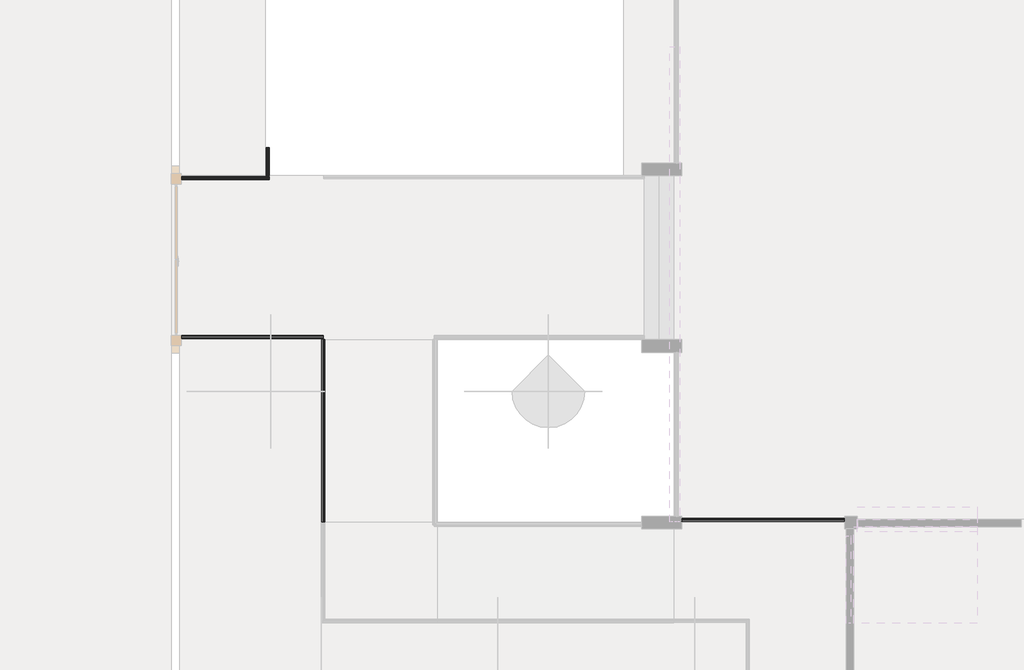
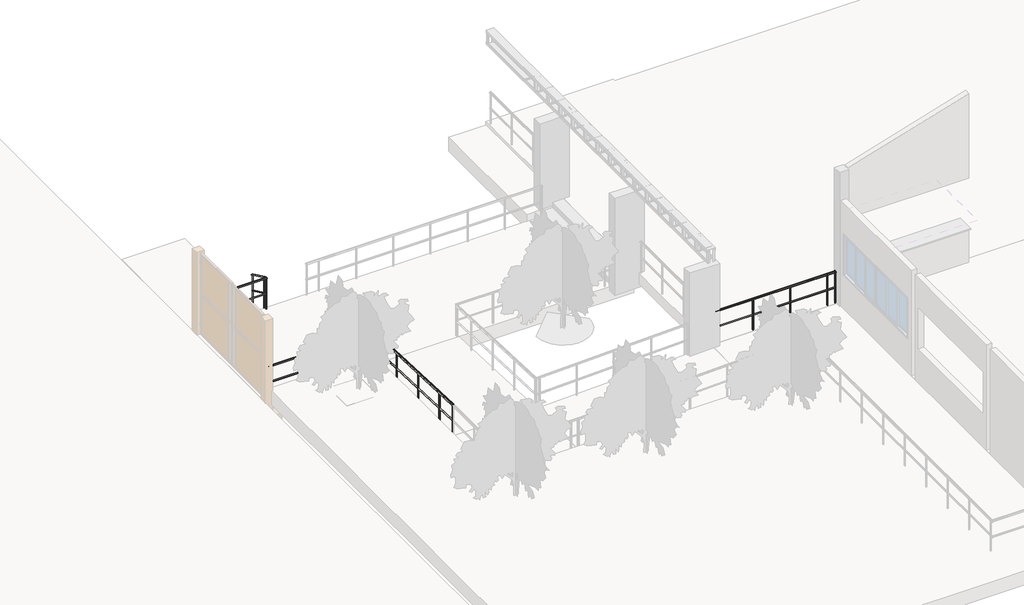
# One storey, part 9 of 12: 5 railings.
"""IFC4 building model written with IfcOpenShell, lengths in millimetres."""

from ifc_helpers import new_model, si_unit, point, frame, frame_2d, origin, origin_with_axes, place, context, project, spatial, polyline, circle_curve, ellipse_curve, trimmed, segment, composite_curve, outline, extrude, element, save
from ifc_brep_helpers import plane_surface, cylinder_surface, advanced_brep

model = new_model("IFC4")

# Units and contexts
model_context = context("Model", 3, world=origin())
ifc_project = project(units=[si_unit("LENGTHUNIT", "METRE", prefix="MILLI")], contexts=[model_context])

# Site, building, storey
site = spatial("IfcSite", under=ifc_project)
building = spatial("IfcBuilding", under=site)
storey = spatial("IfcBuildingStorey", under=building, Name="Nível 1", Elevation=0.0)

# Railings
placement = place(None, origin())
element("IfcRailing", 1, ObjectType="900 mm Tubulação", at=placement, inside=storey, context=model_context, shape_type="SweptSolid", body=[
    extrude(outline(composite_curve([segment(trimmed(circle_curve(frame_2d((22646.1862478, 880.0)), 20.0), [point((22626.1862478, 880.0))], [point((22646.1862478, 900.0))], False, "CARTESIAN"), True, "CONTINUOUS"), segment(polyline([(22646.1862478, 900.0), (22666.1862478, 900.0)]), True, "CONTINUOUS"), segment(trimmed(circle_curve(frame_2d((22666.1862478, 880.0)), 20.0), [point((22666.1862478, 900.0))], [point((22686.1862478, 880.0))], False, "CARTESIAN"), True, "CONTINUOUS"), segment(polyline([(22686.1862478, 880.0), (22656.1862478, 880.0), (22626.1862478, 880.0)]), True, "CONTINUOUS")], self_intersect=False)), frame((-27998.4714475, 0.0, 0.0), z_axis=(1.0, 0.0, 0.0), x_axis=(0.0, 1.0, 0.0)), (0.0, 0.0, 1.0), 1780.0),
    extrude(outline(composite_curve([segment(trimmed(circle_curve(frame_2d((22656.1862478, 885.0)), 15.0), [point((22641.1862478, 885.0))], [point((22671.1862478, 885.0))], False, "CARTESIAN"), True, "CONTINUOUS"), segment(trimmed(circle_curve(frame_2d((22656.1862478, 885.0)), 15.0), [point((22671.1862478, 885.0))], [point((22641.1862478, 885.0))], False, "CARTESIAN"), True, "CONTINUOUS")], self_intersect=False)), frame((-27998.4714475, 0.0, 0.0), z_axis=(1.0, 0.0, 0.0), x_axis=(0.0, 1.0, 0.0)), (0.0, 0.0, 1.0), 1780.0),
    extrude(outline(composite_curve([segment(trimmed(circle_curve(frame_2d((22656.1862478, 435.0)), 15.0), [point((22641.1862478, 435.0))], [point((22671.1862478, 435.0))], False, "CARTESIAN"), True, "CONTINUOUS"), segment(trimmed(circle_curve(frame_2d((22656.1862478, 435.0)), 15.0), [point((22671.1862478, 435.0))], [point((22641.1862478, 435.0))], False, "CARTESIAN"), True, "CONTINUOUS")], self_intersect=False)), frame((-27998.4714475, 0.0, 0.0), z_axis=(1.0, 0.0, 0.0), x_axis=(0.0, 1.0, 0.0)), (0.0, 0.0, 1.0), 1780.0),
    extrude(outline(composite_curve([segment(trimmed(circle_curve(frame_2d((-27218.4714475, 22656.1862478)), 12.5), [point((-27218.4714475, 22643.6862478))], [point((-27218.4714475, 22668.6862478))], False, "CARTESIAN"), True, "CONTINUOUS"), segment(trimmed(circle_curve(frame_2d((-27218.4714475, 22656.1862478)), 12.5), [point((-27218.4714475, 22668.6862478))], [point((-27218.4714475, 22643.6862478))], False, "CARTESIAN"), True, "CONTINUOUS")], self_intersect=False)), origin_with_axes(), (0.0, 0.0, 1.0), 870.0),
    extrude(outline(composite_curve([segment(trimmed(circle_curve(frame_2d((-27985.9714475, 22656.1862478)), 12.5), [point((-27985.9714475, 22643.6862478))], [point((-27985.9714475, 22668.6862478))], False, "CARTESIAN"), True, "CONTINUOUS"), segment(trimmed(circle_curve(frame_2d((-27985.9714475, 22656.1862478)), 12.5), [point((-27985.9714475, 22668.6862478))], [point((-27985.9714475, 22643.6862478))], False, "CARTESIAN"), True, "CONTINUOUS")], self_intersect=False)), origin_with_axes(), (0.0, 0.0, 1.0), 880.0),
    extrude(outline(composite_curve([segment(trimmed(circle_curve(frame_2d((-26230.9714475, 22656.1862478)), 12.5), [point((-26230.9714475, 22643.6862478))], [point((-26230.9714475, 22668.6862478))], False, "CARTESIAN"), True, "CONTINUOUS"), segment(trimmed(circle_curve(frame_2d((-26230.9714475, 22656.1862478)), 12.5), [point((-26230.9714475, 22668.6862478))], [point((-26230.9714475, 22643.6862478))], False, "CARTESIAN"), True, "CONTINUOUS")], self_intersect=False)), origin_with_axes(), (0.0, 0.0, 1.0), 880.0),
])
element("IfcRailing", 2, ObjectType="900 mm Tubulação", at=placement, inside=storey, context=model_context, shape_type="AdvancedBrep", body=[
    advanced_brep(
    [(-26218.5268603, 23266.1862478, 611.1815174), (-26248.5268603, 23266.1862478, 611.1815174), (-26278.5268603, 23266.1862478, 611.1815174), (-26258.5268603, 23266.1862478, 633.3333333), (-26238.5268603, 23266.1862478, 633.3333333), (-26218.5268603, 22706.1862478, 877.8481841), (-26238.5268603, 22706.1862478, 900.0), (-26258.5268603, 22706.1862478, 900.0), (-26278.5268603, 22706.1862478, 877.8481841), (-26248.5268603, 22706.1862478, 877.8481841)],
    [
        (0, 1),
        (1, 2),
        (2, 3, ellipse_curve(frame((-26258.5268603, 23266.1862478, 611.1815174), z_axis=(0.0, 1.0, 0.0), x_axis=(0.0, 0.0, -0.9999999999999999)), 22.1518159, 20.0)),
        (3, 4),
        (4, 0, ellipse_curve(frame((-26238.5268603, 23266.1862478, 611.1815174), z_axis=(0.0, 1.0, 0.0), x_axis=(0.0, 0.0, -0.9999999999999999)), 22.1518159, 20.0)),
        (5, 6, ellipse_curve(frame((-26238.5268603, 22706.1862478, 877.8481841), z_axis=(0.0, -1.0, 0.0), x_axis=(0.0, 0.0, -0.9999999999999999)), 22.1518159, 20.0)),
        (6, 7),
        (7, 8, ellipse_curve(frame((-26258.5268603, 22706.1862478, 877.8481841), z_axis=(0.0, -1.0, 0.0), x_axis=(0.0, 0.0, -0.9999999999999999)), 22.1518159, 20.0)),
        (8, 9),
        (9, 5),
        (0, 5),
        (9, 1),
        (8, 2),
        (7, 3),
        (6, 4),
    ],
    [
        plane_surface(frame((-26248.5268603, 23266.1862478, 633.3333333), z_axis=(0.0, 1.0, 0.0), x_axis=(0.0, 0.0, -1.0))),
        plane_surface(frame((-26248.5268603, 22706.1862478, 900.0), z_axis=(0.0, -1.0, 0.0), x_axis=(0.0, 0.0, -1.0))),
        plane_surface(frame((-26218.5268603, 23266.1862478, 611.1815174), z_axis=(0.0, -0.4299335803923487, -0.9028605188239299), x_axis=(0.0, -0.9028605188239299, 0.4299335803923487))),
        plane_surface(frame((-26248.5268603, 23266.1862478, 611.1815174), z_axis=(0.0, -0.4299335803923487, -0.9028605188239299), x_axis=(0.0, -0.9028605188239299, 0.4299335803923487))),
        cylinder_surface(frame((-26258.5268603, 23257.5875762, 615.276123), z_axis=(0.0, 0.9028605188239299, -0.4299335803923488), x_axis=(1.0, 0.0, 0.0)), 20.0),
        plane_surface(frame((-26258.5268603, 23266.1862478, 633.3333333), z_axis=(0.0, 0.4299335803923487, 0.9028605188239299), x_axis=(0.0, -0.9028605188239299, 0.4299335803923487))),
        cylinder_surface(frame((-26238.5268603, 23257.5875762, 615.276123), z_axis=(0.0, 0.9028605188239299, -0.4299335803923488), x_axis=(1.0, 0.0, 0.0)), 20.0),
    ],
    [
        (0, [[1, 2, 3, 4, 5]]),
        (1, [[6, 7, 8, 9, 10]]),
        (2, [[-1, 11, -10, 12]]),
        (3, [[-2, -12, -9, 13]]),
        (4, [[-3, -13, -8, 14]]),
        (5, [[-4, -14, -7, 15]]),
        (6, [[-5, -15, -6, -11]]),
    ],
),
    advanced_brep(
    [(-26233.5268603, 23266.1862478, 616.7194714), (-26263.5268603, 23266.1862478, 616.7194714), (-26233.5268603, 22706.1862478, 883.3861381), (-26263.5268603, 22706.1862478, 883.3861381)],
    [
        (0, 1, ellipse_curve(frame((-26248.5268603, 23266.1862478, 616.7194714), z_axis=(0.0, 1.0, 0.0), x_axis=(0.0, 0.0, -0.9999999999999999)), 16.6138619, 15.0)),
        (1, 0, ellipse_curve(frame((-26248.5268603, 23266.1862478, 616.7194714), z_axis=(0.0, 1.0, 0.0), x_axis=(0.0, 0.0, -0.9999999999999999)), 16.6138619, 15.0)),
        (2, 3, ellipse_curve(frame((-26248.5268603, 22706.1862478, 883.3861381), z_axis=(0.0, -1.0, 0.0), x_axis=(0.0, 0.0, -0.9999999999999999)), 16.6138619, 15.0)),
        (3, 2, ellipse_curve(frame((-26248.5268603, 22706.1862478, 883.3861381), z_axis=(0.0, -1.0, 0.0), x_axis=(0.0, 0.0, -0.9999999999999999)), 16.6138619, 15.0)),
        (0, 2),
        (3, 1),
    ],
    [
        plane_surface(frame((-26248.5268603, 23266.1862478, 633.3333333), z_axis=(0.0, 1.0, 0.0), x_axis=(0.0, 0.0, -1.0))),
        plane_surface(frame((-26248.5268603, 22706.1862478, 900.0), z_axis=(0.0, -1.0, 0.0), x_axis=(0.0, 0.0, -1.0))),
        cylinder_surface(frame((-26248.5268603, 23259.7372441, 619.7904256), z_axis=(0.0, 0.9028605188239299, -0.4299335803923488), x_axis=(-1.0, 0.0, 0.0)), 15.0),
    ],
    [
        (0, [[1, 2]]),
        (1, [[3, 4]]),
        (2, [[-1, 5, -4, 6]]),
        (2, [[-2, -6, -3, -5]]),
    ],
),
    advanced_brep(
    [(-26233.5268603, 23266.1862478, 166.7194714), (-26263.5268603, 23266.1862478, 166.7194714), (-26233.5268603, 22706.1862478, 433.3861381), (-26263.5268603, 22706.1862478, 433.3861381)],
    [
        (0, 1, ellipse_curve(frame((-26248.5268603, 23266.1862478, 166.7194714), z_axis=(0.0, 1.0, 0.0), x_axis=(0.0, 0.0, -0.9999999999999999)), 16.6138619, 15.0)),
        (1, 0, ellipse_curve(frame((-26248.5268603, 23266.1862478, 166.7194714), z_axis=(0.0, 1.0, 0.0), x_axis=(0.0, 0.0, -0.9999999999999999)), 16.6138619, 15.0)),
        (2, 3, ellipse_curve(frame((-26248.5268603, 22706.1862478, 433.3861381), z_axis=(0.0, -1.0, 0.0), x_axis=(0.0, 0.0, -0.9999999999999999)), 16.6138619, 15.0)),
        (3, 2, ellipse_curve(frame((-26248.5268603, 22706.1862478, 433.3861381), z_axis=(0.0, -1.0, 0.0), x_axis=(0.0, 0.0, -0.9999999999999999)), 16.6138619, 15.0)),
        (0, 2),
        (3, 1),
    ],
    [
        plane_surface(frame((-26248.5268603, 23266.1862478, 183.3333333), z_axis=(0.0, 1.0, 0.0), x_axis=(0.0, 0.0, -1.0))),
        plane_surface(frame((-26248.5268603, 22706.1862478, 450.0), z_axis=(0.0, -1.0, 0.0), x_axis=(0.0, 0.0, -1.0))),
        cylinder_surface(frame((-26248.5268603, 23259.7372441, 169.7904256), z_axis=(0.0, 0.9028605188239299, -0.4299335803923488), x_axis=(-1.0, 0.0, 0.0)), 15.0),
    ],
    [
        (0, [[1, 2]]),
        (1, [[3, 4]]),
        (2, [[-1, 5, -4, 6]]),
        (2, [[-2, -6, -3, -5]]),
    ],
),
    advanced_brep(
    [(-26261.0268603, 22718.6862478, 871.8958031), (-26261.0268603, 22718.6862478, -133.3333333), (-26236.0268603, 22718.6862478, -133.3333333), (-26236.0268603, 22718.6862478, 871.8958031)],
    [
        (0, 1),
        (1, 2, circle_curve(frame((-26248.5268603, 22718.6862478, -133.3333333), z_axis=(0.0, 0.0, 1.0), x_axis=(1.0, 0.0, 0.0)), 12.5)),
        (2, 3),
        (3, 0, ellipse_curve(frame((-26248.5268603, 22718.6862478, 871.8958031), z_axis=(0.0, -0.42993358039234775, -0.9028605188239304), x_axis=(0.0, -0.9028605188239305, 0.42993358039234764)), 13.8448849, 12.5)),
        (0, 3, ellipse_curve(frame((-26248.5268603, 22718.6862478, 871.8958031), z_axis=(0.0, -0.42993358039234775, -0.9028605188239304), x_axis=(0.0, -0.9028605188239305, 0.42993358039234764)), 13.8448849, 12.5)),
        (2, 1, circle_curve(frame((-26248.5268603, 22718.6862478, -133.3333333), z_axis=(0.0, 0.0, 1.0), x_axis=(1.0, 0.0, 0.0)), 12.5)),
    ],
    [
        cylinder_surface(frame((-26248.5268603, 22718.6862478, -233.3333333), z_axis=(0.0, 0.0, 1.0), x_axis=(1.0, 0.0, 0.0)), 12.5),
        plane_surface(frame((-26223.5268603, 22693.6862478, 883.800565), z_axis=(0.0, 0.42993358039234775, 0.9028605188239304), x_axis=(-1.0, 0.0, 0.0))),
        plane_surface(frame((-26223.5268603, 22743.6862478, -133.3333333), z_axis=(0.0, 0.0, -1.0), x_axis=(-1.0, 0.0, 0.0))),
    ],
    [
        (0, [[1, 2, 3, 4]]),
        (0, [[-1, 5, -3, 6]]),
        (1, [[-4, -5]]),
        (2, [[-2, -6]]),
    ],
),
    advanced_brep(
    [(-26261.0268603, 23253.6862478, 617.1338984), (-26261.0268603, 23253.6862478, -266.6666667), (-26236.0268603, 23253.6862478, -266.6666667), (-26236.0268603, 23253.6862478, 617.1338984)],
    [
        (0, 1),
        (1, 2, circle_curve(frame((-26248.5268603, 23253.6862478, -266.6666667), z_axis=(0.0, 0.0, 1.0), x_axis=(1.0, 0.0, 0.0)), 12.5)),
        (2, 3),
        (3, 0, ellipse_curve(frame((-26248.5268603, 23253.6862478, 617.1338984), z_axis=(0.0, -0.42993358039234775, -0.9028605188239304), x_axis=(0.0, -0.9028605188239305, 0.42993358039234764)), 13.8448849, 12.5)),
        (0, 3, ellipse_curve(frame((-26248.5268603, 23253.6862478, 617.1338984), z_axis=(0.0, -0.42993358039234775, -0.9028605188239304), x_axis=(0.0, -0.9028605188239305, 0.42993358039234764)), 13.8448849, 12.5)),
        (2, 1, circle_curve(frame((-26248.5268603, 23253.6862478, -266.6666667), z_axis=(0.0, 0.0, 1.0), x_axis=(1.0, 0.0, 0.0)), 12.5)),
    ],
    [
        cylinder_surface(frame((-26248.5268603, 23253.6862478, -366.6666667), z_axis=(0.0, 0.0, 1.0), x_axis=(1.0, 0.0, 0.0)), 12.5),
        plane_surface(frame((-26223.5268603, 23228.6862478, 629.0386603), z_axis=(0.0, 0.42993358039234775, 0.9028605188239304), x_axis=(-1.0, 0.0, 0.0))),
        plane_surface(frame((-26223.5268603, 23278.6862478, -266.6666667), z_axis=(0.0, 0.0, -1.0), x_axis=(-1.0, 0.0, 0.0))),
    ],
    [
        (0, [[1, 2, 3, 4]]),
        (0, [[-1, 5, -3, 6]]),
        (1, [[-4, -5]]),
        (2, [[-2, -6]]),
    ],
),
])
element("IfcRailing", 3, ObjectType="900 mm Tubulação", at=placement, inside=storey, context=model_context, shape_type="SweptSolid", body=[
    extrude(outline(composite_curve([segment(polyline([(19536.1862478, 880.0), (19506.1862478, 880.0), (19476.1862478, 880.0)]), True, "CONTINUOUS"), segment(trimmed(circle_curve(frame_2d((19496.1862478, 880.0)), 20.0), [point((19476.1862478, 880.0))], [point((19496.1862478, 900.0))], False, "CARTESIAN"), True, "CONTINUOUS"), segment(polyline([(19496.1862478, 900.0), (19516.1862478, 900.0)]), True, "CONTINUOUS"), segment(trimmed(circle_curve(frame_2d((19516.1862478, 880.0)), 20.0), [point((19516.1862478, 900.0))], [point((19536.1862478, 880.0))], False, "CARTESIAN"), True, "CONTINUOUS")], self_intersect=False)), frame((-27998.4714475, 0.0, 0.0), z_axis=(1.0, 0.0, 0.0), x_axis=(0.0, 1.0, 0.0)), (0.0, 0.0, 1.0), 2849.9445873),
    extrude(outline(composite_curve([segment(trimmed(circle_curve(frame_2d((19506.1862478, 885.0)), 15.0), [point((19521.1862478, 885.0))], [point((19491.1862478, 885.0))], False, "CARTESIAN"), True, "CONTINUOUS"), segment(trimmed(circle_curve(frame_2d((19506.1862478, 885.0)), 15.0), [point((19491.1862478, 885.0))], [point((19521.1862478, 885.0))], False, "CARTESIAN"), True, "CONTINUOUS")], self_intersect=False)), frame((-27998.4714475, 0.0, 0.0), z_axis=(1.0, 0.0, 0.0), x_axis=(0.0, 1.0, 0.0)), (0.0, 0.0, 1.0), 2849.9445873),
    extrude(outline(composite_curve([segment(trimmed(circle_curve(frame_2d((19506.1862478, 435.0)), 15.0), [point((19521.1862478, 435.0))], [point((19491.1862478, 435.0))], False, "CARTESIAN"), True, "CONTINUOUS"), segment(trimmed(circle_curve(frame_2d((19506.1862478, 435.0)), 15.0), [point((19491.1862478, 435.0))], [point((19521.1862478, 435.0))], False, "CARTESIAN"), True, "CONTINUOUS")], self_intersect=False)), frame((-27998.4714475, 0.0, 0.0), z_axis=(1.0, 0.0, 0.0), x_axis=(0.0, 1.0, 0.0)), (0.0, 0.0, 1.0), 2849.9445873),
    extrude(outline(composite_curve([segment(trimmed(circle_curve(frame_2d((-25998.4714475, 19506.1862478)), 12.5), [point((-25998.4714475, 19518.6862478))], [point((-25998.4714475, 19493.6862478))], False, "CARTESIAN"), True, "CONTINUOUS"), segment(trimmed(circle_curve(frame_2d((-25998.4714475, 19506.1862478)), 12.5), [point((-25998.4714475, 19493.6862478))], [point((-25998.4714475, 19518.6862478))], False, "CARTESIAN"), True, "CONTINUOUS")], self_intersect=False)), origin_with_axes(), (0.0, 0.0, 1.0), 870.0),
    extrude(outline(composite_curve([segment(trimmed(circle_curve(frame_2d((-26998.4714475, 19506.1862478)), 12.5), [point((-26998.4714475, 19518.6862478))], [point((-26998.4714475, 19493.6862478))], False, "CARTESIAN"), True, "CONTINUOUS"), segment(trimmed(circle_curve(frame_2d((-26998.4714475, 19506.1862478)), 12.5), [point((-26998.4714475, 19493.6862478))], [point((-26998.4714475, 19518.6862478))], False, "CARTESIAN"), True, "CONTINUOUS")], self_intersect=False)), origin_with_axes(), (0.0, 0.0, 1.0), 870.0),
    extrude(outline(composite_curve([segment(trimmed(circle_curve(frame_2d((-25161.0268603, 19506.1862478)), 12.5), [point((-25161.0268603, 19518.6862478))], [point((-25161.0268603, 19493.6862478))], False, "CARTESIAN"), True, "CONTINUOUS"), segment(trimmed(circle_curve(frame_2d((-25161.0268603, 19506.1862478)), 12.5), [point((-25161.0268603, 19493.6862478))], [point((-25161.0268603, 19518.6862478))], False, "CARTESIAN"), True, "CONTINUOUS")], self_intersect=False)), origin_with_axes(), (0.0, 0.0, 1.0), 880.0),
    extrude(outline(composite_curve([segment(trimmed(circle_curve(frame_2d((-27985.9714475, 19506.1862478)), 12.5), [point((-27985.9714475, 19518.6862478))], [point((-27985.9714475, 19493.6862478))], False, "CARTESIAN"), True, "CONTINUOUS"), segment(trimmed(circle_curve(frame_2d((-27985.9714475, 19506.1862478)), 12.5), [point((-27985.9714475, 19493.6862478))], [point((-27985.9714475, 19518.6862478))], False, "CARTESIAN"), True, "CONTINUOUS")], self_intersect=False)), origin_with_axes(), (0.0, 0.0, 1.0), 880.0),
])
element("IfcRailing", 4, ObjectType="900 mm Tubulação", at=placement, inside=storey, context=model_context, shape_type="AdvancedBrep", body=[
    advanced_brep(
    [(-25118.5268603, 19456.1862478, 879.2144305), (-25148.5268603, 19456.1862478, 879.2144305), (-25178.5268603, 19456.1862478, 879.2144305), (-25158.5268603, 19456.1862478, 899.2317214), (-25138.5268603, 19456.1862478, 899.2317214), (-25118.5268603, 15831.1862478, 1029.9827092), (-25138.5268603, 15831.1862478, 1050.0), (-25158.5268603, 15831.1862478, 1050.0), (-25178.5268603, 15831.1862478, 1029.9827092), (-25148.5268603, 15831.1862478, 1029.9827092)],
    [
        (0, 1),
        (1, 2),
        (2, 3, ellipse_curve(frame((-25158.5268603, 19456.1862478, 879.2144305), z_axis=(0.0, 1.0, 0.0), x_axis=(0.0, 0.0, -1.0)), 20.0172908, 20.0)),
        (3, 4),
        (4, 0, ellipse_curve(frame((-25138.5268603, 19456.1862478, 879.2144305), z_axis=(0.0, 1.0, 0.0), x_axis=(0.0, 0.0, -1.0)), 20.0172908, 20.0)),
        (5, 6, ellipse_curve(frame((-25138.5268603, 15831.1862478, 1029.9827092), z_axis=(0.0, -1.0, 0.0), x_axis=(0.0, 0.0, -1.0)), 20.0172908, 20.0)),
        (6, 7),
        (7, 8, ellipse_curve(frame((-25158.5268603, 15831.1862478, 1029.9827092), z_axis=(0.0, -1.0, 0.0), x_axis=(0.0, 0.0, -1.0)), 20.0172908, 20.0)),
        (8, 9),
        (9, 5),
        (0, 5),
        (9, 1),
        (8, 2),
        (7, 3),
        (6, 4),
    ],
    [
        plane_surface(frame((-25148.5268603, 19456.1862478, 899.2317214), z_axis=(0.0, 1.0, 0.0), x_axis=(0.0, 0.0, -1.0))),
        plane_surface(frame((-25148.5268603, 15831.1862478, 1050.0), z_axis=(0.0, -1.0, 0.0), x_axis=(0.0, 0.0, -1.0))),
        plane_surface(frame((-25118.5268603, 19456.1862478, 879.2144305), z_axis=(0.0, -0.04155532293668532, -0.999136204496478), x_axis=(0.0, -0.999136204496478, 0.04155532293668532))),
        plane_surface(frame((-25148.5268603, 19456.1862478, 879.2144305), z_axis=(0.0, -0.04155532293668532, -0.999136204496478), x_axis=(0.0, -0.999136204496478, 0.04155532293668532))),
        cylinder_surface(frame((-25158.5268603, 19455.3551413, 879.2489973), z_axis=(0.0, 0.999136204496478, -0.04155532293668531), x_axis=(1.0, 0.0, 0.0)), 20.0),
        plane_surface(frame((-25158.5268603, 19456.1862478, 899.2317214), z_axis=(0.0, 0.04155532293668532, 0.999136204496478), x_axis=(0.0, -0.999136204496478, 0.04155532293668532))),
        cylinder_surface(frame((-25138.5268603, 19455.3551413, 879.2489973), z_axis=(0.0, 0.999136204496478, -0.04155532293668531), x_axis=(1.0, 0.0, 0.0)), 20.0),
    ],
    [
        (0, [[1, 2, 3, 4, 5]]),
        (1, [[6, 7, 8, 9, 10]]),
        (2, [[-1, 11, -10, 12]]),
        (3, [[-2, -12, -9, 13]]),
        (4, [[-3, -13, -8, 14]]),
        (5, [[-4, -14, -7, 15]]),
        (6, [[-5, -15, -6, -11]]),
    ],
),
    advanced_brep(
    [(-25133.5268603, 19456.1862478, 884.2187533), (-25163.5268603, 19456.1862478, 884.2187533), (-25133.5268603, 15831.1862478, 1034.9870319), (-25163.5268603, 15831.1862478, 1034.9870319)],
    [
        (0, 1, ellipse_curve(frame((-25148.5268603, 19456.1862478, 884.2187533), z_axis=(0.0, 1.0, 0.0), x_axis=(0.0, 0.0, -1.0)), 15.0129681, 15.0)),
        (1, 0, ellipse_curve(frame((-25148.5268603, 19456.1862478, 884.2187533), z_axis=(0.0, 1.0, 0.0), x_axis=(0.0, 0.0, -1.0)), 15.0129681, 15.0)),
        (2, 3, ellipse_curve(frame((-25148.5268603, 15831.1862478, 1034.9870319), z_axis=(0.0, -1.0, 0.0), x_axis=(0.0, 0.0, -1.0)), 15.0129681, 15.0)),
        (3, 2, ellipse_curve(frame((-25148.5268603, 15831.1862478, 1034.9870319), z_axis=(0.0, -1.0, 0.0), x_axis=(0.0, 0.0, -1.0)), 15.0129681, 15.0)),
        (0, 2),
        (3, 1),
    ],
    [
        plane_surface(frame((-25148.5268603, 19456.1862478, 899.2317214), z_axis=(0.0, 1.0, 0.0), x_axis=(0.0, 0.0, -1.0))),
        plane_surface(frame((-25148.5268603, 15831.1862478, 1050.0), z_axis=(0.0, -1.0, 0.0), x_axis=(0.0, 0.0, -1.0))),
        cylinder_surface(frame((-25148.5268603, 19455.5629179, 884.2446783), z_axis=(0.0, 0.999136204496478, -0.04155532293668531), x_axis=(-1.0, 0.0, 0.0)), 15.0),
    ],
    [
        (0, [[1, 2]]),
        (1, [[3, 4]]),
        (2, [[-1, 5, -4, 6]]),
        (2, [[-2, -6, -3, -5]]),
    ],
),
    advanced_brep(
    [(-25133.5268603, 19456.1862478, 434.2187533), (-25163.5268603, 19456.1862478, 434.2187533), (-25133.5268603, 15831.1862478, 584.9870319), (-25163.5268603, 15831.1862478, 584.9870319)],
    [
        (0, 1, ellipse_curve(frame((-25148.5268603, 19456.1862478, 434.2187533), z_axis=(0.0, 1.0, 0.0), x_axis=(0.0, 0.0, -1.0)), 15.0129681, 15.0)),
        (1, 0, ellipse_curve(frame((-25148.5268603, 19456.1862478, 434.2187533), z_axis=(0.0, 1.0, 0.0), x_axis=(0.0, 0.0, -1.0)), 15.0129681, 15.0)),
        (2, 3, ellipse_curve(frame((-25148.5268603, 15831.1862478, 584.9870319), z_axis=(0.0, -1.0, 0.0), x_axis=(0.0, 0.0, -1.0)), 15.0129681, 15.0)),
        (3, 2, ellipse_curve(frame((-25148.5268603, 15831.1862478, 584.9870319), z_axis=(0.0, -1.0, 0.0), x_axis=(0.0, 0.0, -1.0)), 15.0129681, 15.0)),
        (0, 2),
        (3, 1),
    ],
    [
        plane_surface(frame((-25148.5268603, 19456.1862478, 449.2317214), z_axis=(0.0, 1.0, 0.0), x_axis=(0.0, 0.0, -1.0))),
        plane_surface(frame((-25148.5268603, 15831.1862478, 600.0), z_axis=(0.0, -1.0, 0.0), x_axis=(0.0, 0.0, -1.0))),
        cylinder_surface(frame((-25148.5268603, 19455.5629179, 434.2446783), z_axis=(0.0, 0.999136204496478, -0.04155532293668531), x_axis=(-1.0, 0.0, 0.0)), 15.0),
    ],
    [
        (0, [[1, 2]]),
        (1, [[3, 4]]),
        (2, [[-1, 5, -4, 6]]),
        (2, [[-2, -6, -3, -5]]),
    ],
),
    advanced_brep(
    [(-25161.0268603, 16456.1862478, 994.0054692), (-25161.0268603, 16456.1862478, 124.0054692), (-25136.0268603, 16456.1862478, 124.0054692), (-25136.0268603, 16456.1862478, 994.0054692)],
    [
        (0, 1),
        (1, 2, ellipse_curve(frame((-25148.5268603, 16456.1862478, 124.0054692), z_axis=(0.0, 0.04155532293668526, 0.999136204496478), x_axis=(0.0, -0.999136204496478, 0.04155532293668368)), 12.5108068, 12.5)),
        (2, 3),
        (3, 0, ellipse_curve(frame((-25148.5268603, 16456.1862478, 994.0054692), z_axis=(0.0, -0.04155532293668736, -0.9991362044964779), x_axis=(0.0, -0.999136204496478, 0.041555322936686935)), 12.5108068, 12.5)),
        (0, 3, ellipse_curve(frame((-25148.5268603, 16456.1862478, 994.0054692), z_axis=(0.0, -0.04155532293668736, -0.9991362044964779), x_axis=(0.0, -0.999136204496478, 0.041555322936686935)), 12.5108068, 12.5)),
        (2, 1, ellipse_curve(frame((-25148.5268603, 16456.1862478, 124.0054692), z_axis=(0.0, 0.04155532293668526, 0.999136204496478), x_axis=(0.0, -0.999136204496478, 0.04155532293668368)), 12.5108068, 12.5)),
    ],
    [
        cylinder_surface(frame((-25148.5268603, 16456.1862478, 24.0054692), z_axis=(0.0, 0.0, 1.0), x_axis=(1.0, 0.0, 0.0)), 12.5),
        plane_surface(frame((-25123.5268603, 16431.1862478, 995.0452504), z_axis=(0.0, 0.04155532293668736, 0.9991362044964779), x_axis=(-1.0, 0.0, 0.0))),
        plane_surface(frame((-25123.5268603, 16481.1862478, 122.965688), z_axis=(0.0, -0.04155532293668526, -0.999136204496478), x_axis=(-1.0, 0.0, 0.0))),
    ],
    [
        (0, [[1, 2, 3, 4]]),
        (0, [[-1, 5, -3, 6]]),
        (1, [[-4, -5]]),
        (2, [[-2, -6]]),
    ],
),
    advanced_brep(
    [(-25161.0268603, 17456.1862478, 952.4142199), (-25161.0268603, 17456.1862478, 82.4142199), (-25136.0268603, 17456.1862478, 82.4142199), (-25136.0268603, 17456.1862478, 952.4142199)],
    [
        (0, 1),
        (1, 2, ellipse_curve(frame((-25148.5268603, 17456.1862478, 82.4142199), z_axis=(0.0, 0.04155532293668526, 0.999136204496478), x_axis=(0.0, -0.999136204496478, 0.04155532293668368)), 12.5108068, 12.5)),
        (2, 3),
        (3, 0, ellipse_curve(frame((-25148.5268603, 17456.1862478, 952.4142199), z_axis=(0.0, -0.04155532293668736, -0.9991362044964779), x_axis=(0.0, -0.999136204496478, 0.041555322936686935)), 12.5108068, 12.5)),
        (0, 3, ellipse_curve(frame((-25148.5268603, 17456.1862478, 952.4142199), z_axis=(0.0, -0.04155532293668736, -0.9991362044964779), x_axis=(0.0, -0.999136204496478, 0.041555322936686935)), 12.5108068, 12.5)),
        (2, 1, ellipse_curve(frame((-25148.5268603, 17456.1862478, 82.4142199), z_axis=(0.0, 0.04155532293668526, 0.999136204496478), x_axis=(0.0, -0.999136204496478, 0.04155532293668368)), 12.5108068, 12.5)),
    ],
    [
        cylinder_surface(frame((-25148.5268603, 17456.1862478, -17.5857801), z_axis=(0.0, 0.0, 1.0), x_axis=(1.0, 0.0, 0.0)), 12.5),
        plane_surface(frame((-25123.5268603, 17431.1862478, 953.4540012), z_axis=(0.0, 0.04155532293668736, 0.9991362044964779), x_axis=(-1.0, 0.0, 0.0))),
        plane_surface(frame((-25123.5268603, 17481.1862478, 81.3744387), z_axis=(0.0, -0.04155532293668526, -0.999136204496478), x_axis=(-1.0, 0.0, 0.0))),
    ],
    [
        (0, [[1, 2, 3, 4]]),
        (0, [[-1, 5, -3, 6]]),
        (1, [[-4, -5]]),
        (2, [[-2, -6]]),
    ],
),
    advanced_brep(
    [(-25161.0268603, 18456.1862478, 910.8229707), (-25161.0268603, 18456.1862478, 40.8229707), (-25136.0268603, 18456.1862478, 40.8229707), (-25136.0268603, 18456.1862478, 910.8229707)],
    [
        (0, 1),
        (1, 2, ellipse_curve(frame((-25148.5268603, 18456.1862478, 40.8229707), z_axis=(0.0, 0.04155532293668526, 0.999136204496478), x_axis=(0.0, -0.999136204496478, 0.04155532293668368)), 12.5108068, 12.5)),
        (2, 3),
        (3, 0, ellipse_curve(frame((-25148.5268603, 18456.1862478, 910.8229707), z_axis=(0.0, -0.04155532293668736, -0.9991362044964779), x_axis=(0.0, -0.999136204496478, 0.041555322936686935)), 12.5108068, 12.5)),
        (0, 3, ellipse_curve(frame((-25148.5268603, 18456.1862478, 910.8229707), z_axis=(0.0, -0.04155532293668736, -0.9991362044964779), x_axis=(0.0, -0.999136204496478, 0.041555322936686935)), 12.5108068, 12.5)),
        (2, 1, ellipse_curve(frame((-25148.5268603, 18456.1862478, 40.8229707), z_axis=(0.0, 0.04155532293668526, 0.999136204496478), x_axis=(0.0, -0.999136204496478, 0.04155532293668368)), 12.5108068, 12.5)),
    ],
    [
        cylinder_surface(frame((-25148.5268603, 18456.1862478, -59.1770293), z_axis=(0.0, 0.0, 1.0), x_axis=(1.0, 0.0, 0.0)), 12.5),
        plane_surface(frame((-25123.5268603, 18431.1862478, 911.8627519), z_axis=(0.0, 0.04155532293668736, 0.9991362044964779), x_axis=(-1.0, 0.0, 0.0))),
        plane_surface(frame((-25123.5268603, 18481.1862478, 39.7831894), z_axis=(0.0, -0.04155532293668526, -0.999136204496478), x_axis=(-1.0, 0.0, 0.0))),
    ],
    [
        (0, [[1, 2, 3, 4]]),
        (0, [[-1, 5, -3, 6]]),
        (1, [[-4, -5]]),
        (2, [[-2, -6]]),
    ],
),
    advanced_brep(
    [(-25161.0268603, 15843.6862478, 1029.4628185), (-25161.0268603, 15843.6862478, 149.4801094), (-25136.0268603, 15843.6862478, 149.4801094), (-25136.0268603, 15843.6862478, 1029.4628185)],
    [
        (0, 1),
        (1, 2, ellipse_curve(frame((-25148.5268603, 15843.6862478, 149.4801094), z_axis=(0.0, 0.04155532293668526, 0.999136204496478), x_axis=(0.0, -0.999136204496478, 0.04155532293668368)), 12.5108068, 12.5)),
        (2, 3),
        (3, 0, ellipse_curve(frame((-25148.5268603, 15843.6862478, 1029.4628185), z_axis=(0.0, -0.04155532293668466, -0.999136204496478), x_axis=(0.0, -0.9991362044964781, 0.041555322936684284)), 12.5108068, 12.5)),
        (0, 3, ellipse_curve(frame((-25148.5268603, 15843.6862478, 1029.4628185), z_axis=(0.0, -0.04155532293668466, -0.999136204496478), x_axis=(0.0, -0.9991362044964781, 0.041555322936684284)), 12.5108068, 12.5)),
        (2, 1, ellipse_curve(frame((-25148.5268603, 15843.6862478, 149.4801094), z_axis=(0.0, 0.04155532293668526, 0.999136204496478), x_axis=(0.0, -0.999136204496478, 0.04155532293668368)), 12.5108068, 12.5)),
    ],
    [
        cylinder_surface(frame((-25148.5268603, 15843.6862478, 49.4801094), z_axis=(0.0, 0.0, 1.0), x_axis=(1.0, 0.0, 0.0)), 12.5),
        plane_surface(frame((-25123.5268603, 15818.6862478, 1030.5025998), z_axis=(0.0, 0.04155532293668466, 0.999136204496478), x_axis=(-1.0, 0.0, 0.0))),
        plane_surface(frame((-25123.5268603, 15868.6862478, 148.4403282), z_axis=(0.0, -0.04155532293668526, -0.999136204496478), x_axis=(-1.0, 0.0, 0.0))),
    ],
    [
        (0, [[1, 2, 3, 4]]),
        (0, [[-1, 5, -3, 6]]),
        (1, [[-4, -5]]),
        (2, [[-2, -6]]),
    ],
),
    advanced_brep(
    [(-25161.0268603, 19443.6862478, 879.7343212), (-25161.0268603, 19443.6862478, -0.248388), (-25136.0268603, 19443.6862478, -0.248388), (-25136.0268603, 19443.6862478, 879.7343212)],
    [
        (0, 1),
        (1, 2, ellipse_curve(frame((-25148.5268603, 19443.6862478, -0.248388), z_axis=(0.0, 0.04155532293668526, 0.999136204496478), x_axis=(0.0, -0.999136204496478, 0.04155532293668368)), 12.5108068, 12.5)),
        (2, 3),
        (3, 0, ellipse_curve(frame((-25148.5268603, 19443.6862478, 879.7343212), z_axis=(0.0, -0.04155532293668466, -0.999136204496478), x_axis=(0.0, -0.9991362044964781, 0.041555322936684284)), 12.5108068, 12.5)),
        (0, 3, ellipse_curve(frame((-25148.5268603, 19443.6862478, 879.7343212), z_axis=(0.0, -0.04155532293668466, -0.999136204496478), x_axis=(0.0, -0.9991362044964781, 0.041555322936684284)), 12.5108068, 12.5)),
        (2, 1, ellipse_curve(frame((-25148.5268603, 19443.6862478, -0.248388), z_axis=(0.0, 0.04155532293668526, 0.999136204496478), x_axis=(0.0, -0.999136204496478, 0.04155532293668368)), 12.5108068, 12.5)),
    ],
    [
        cylinder_surface(frame((-25148.5268603, 19443.6862478, -100.248388), z_axis=(0.0, 0.0, 1.0), x_axis=(1.0, 0.0, 0.0)), 12.5),
        plane_surface(frame((-25123.5268603, 19418.6862478, 880.7741024), z_axis=(0.0, 0.04155532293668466, 0.999136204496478), x_axis=(-1.0, 0.0, 0.0))),
        plane_surface(frame((-25123.5268603, 19468.6862478, -1.2881692), z_axis=(0.0, -0.04155532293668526, -0.999136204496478), x_axis=(-1.0, 0.0, 0.0))),
    ],
    [
        (0, [[1, 2, 3, 4]]),
        (0, [[-1, 5, -3, 6]]),
        (1, [[-4, -5]]),
        (2, [[-2, -6]]),
    ],
),
])
element("IfcRailing", 5, ObjectType="900 mm Tubulação", at=placement, inside=storey, context=model_context, shape_type="SweptSolid", body=[
    extrude(outline(composite_curve([segment(polyline([(15911.1797638, 1180.0), (15881.1797638, 1180.0), (15851.1797638, 1180.0)]), True, "CONTINUOUS"), segment(trimmed(circle_curve(frame_2d((15871.1797638, 1180.0)), 20.0), [point((15851.1797638, 1180.0))], [point((15871.1797638, 1200.0))], False, "CARTESIAN"), True, "CONTINUOUS"), segment(polyline([(15871.1797638, 1200.0), (15891.1797638, 1200.0)]), True, "CONTINUOUS"), segment(trimmed(circle_curve(frame_2d((15891.1797638, 1180.0)), 20.0), [point((15891.1797638, 1200.0))], [point((15911.1797638, 1180.0))], False, "CARTESIAN"), True, "CONTINUOUS")], self_intersect=False)), frame((-18048.5268603, 0.0, 0.0), z_axis=(1.0, 0.0, 0.0), x_axis=(0.0, 1.0, 0.0)), (0.0, 0.0, 1.0), 3220.0),
    extrude(outline(composite_curve([segment(trimmed(circle_curve(frame_2d((15881.1797638, 1185.0)), 15.0), [point((15896.1797638, 1185.0))], [point((15866.1797638, 1185.0))], False, "CARTESIAN"), True, "CONTINUOUS"), segment(trimmed(circle_curve(frame_2d((15881.1797638, 1185.0)), 15.0), [point((15866.1797638, 1185.0))], [point((15896.1797638, 1185.0))], False, "CARTESIAN"), True, "CONTINUOUS")], self_intersect=False)), frame((-18048.5268603, 0.0, 0.0), z_axis=(1.0, 0.0, 0.0), x_axis=(0.0, 1.0, 0.0)), (0.0, 0.0, 1.0), 3220.0),
    extrude(outline(composite_curve([segment(trimmed(circle_curve(frame_2d((15881.1797638, 735.0)), 15.0), [point((15896.1797638, 735.0))], [point((15866.1797638, 735.0))], False, "CARTESIAN"), True, "CONTINUOUS"), segment(trimmed(circle_curve(frame_2d((15881.1797638, 735.0)), 15.0), [point((15866.1797638, 735.0))], [point((15896.1797638, 735.0))], False, "CARTESIAN"), True, "CONTINUOUS")], self_intersect=False)), frame((-18048.5268603, 0.0, 0.0), z_axis=(1.0, 0.0, 0.0), x_axis=(0.0, 1.0, 0.0)), (0.0, 0.0, 1.0), 3220.0),
    extrude(outline(composite_curve([segment(trimmed(circle_curve(frame_2d((-15048.5268603, 15881.1797638)), 12.5), [point((-15048.5268603, 15893.6797638))], [point((-15048.5268603, 15868.6797638))], False, "CARTESIAN"), True, "CONTINUOUS"), segment(trimmed(circle_curve(frame_2d((-15048.5268603, 15881.1797638)), 12.5), [point((-15048.5268603, 15868.6797638))], [point((-15048.5268603, 15893.6797638))], False, "CARTESIAN"), True, "CONTINUOUS")], self_intersect=False)), frame((0.0, 0.0, 300.0), z_axis=(0.0, 0.0, 1.0), x_axis=(1.0, 0.0, 0.0)), (0.0, 0.0, 1.0), 870.0),
    extrude(outline(composite_curve([segment(trimmed(circle_curve(frame_2d((-16048.5268603, 15881.1797638)), 12.5), [point((-16048.5268603, 15893.6797638))], [point((-16048.5268603, 15868.6797638))], False, "CARTESIAN"), True, "CONTINUOUS"), segment(trimmed(circle_curve(frame_2d((-16048.5268603, 15881.1797638)), 12.5), [point((-16048.5268603, 15868.6797638))], [point((-16048.5268603, 15893.6797638))], False, "CARTESIAN"), True, "CONTINUOUS")], self_intersect=False)), frame((0.0, 0.0, 300.0), z_axis=(0.0, 0.0, 1.0), x_axis=(1.0, 0.0, 0.0)), (0.0, 0.0, 1.0), 870.0),
    extrude(outline(composite_curve([segment(trimmed(circle_curve(frame_2d((-17048.5268603, 15881.1797638)), 12.5), [point((-17048.5268603, 15893.6797638))], [point((-17048.5268603, 15868.6797638))], False, "CARTESIAN"), True, "CONTINUOUS"), segment(trimmed(circle_curve(frame_2d((-17048.5268603, 15881.1797638)), 12.5), [point((-17048.5268603, 15868.6797638))], [point((-17048.5268603, 15893.6797638))], False, "CARTESIAN"), True, "CONTINUOUS")], self_intersect=False)), frame((0.0, 0.0, 300.0), z_axis=(0.0, 0.0, 1.0), x_axis=(1.0, 0.0, 0.0)), (0.0, 0.0, 1.0), 870.0),
    extrude(outline(composite_curve([segment(trimmed(circle_curve(frame_2d((-14841.0268603, 15881.1797638)), 12.5), [point((-14841.0268603, 15893.6797638))], [point((-14841.0268603, 15868.6797638))], False, "CARTESIAN"), True, "CONTINUOUS"), segment(trimmed(circle_curve(frame_2d((-14841.0268603, 15881.1797638)), 12.5), [point((-14841.0268603, 15868.6797638))], [point((-14841.0268603, 15893.6797638))], False, "CARTESIAN"), True, "CONTINUOUS")], self_intersect=False)), frame((0.0, 0.0, 300.0), z_axis=(0.0, 0.0, 1.0), x_axis=(1.0, 0.0, 0.0)), (0.0, 0.0, 1.0), 880.0),
    extrude(outline(composite_curve([segment(trimmed(circle_curve(frame_2d((-18036.0268603, 15881.1797638)), 12.5), [point((-18036.0268603, 15893.6797638))], [point((-18036.0268603, 15868.6797638))], False, "CARTESIAN"), True, "CONTINUOUS"), segment(trimmed(circle_curve(frame_2d((-18036.0268603, 15881.1797638)), 12.5), [point((-18036.0268603, 15868.6797638))], [point((-18036.0268603, 15893.6797638))], False, "CARTESIAN"), True, "CONTINUOUS")], self_intersect=False)), frame((0.0, 0.0, 300.0), z_axis=(0.0, 0.0, 1.0), x_axis=(1.0, 0.0, 0.0)), (0.0, 0.0, 1.0), 880.0),
])

save(model, "model.ifc")
